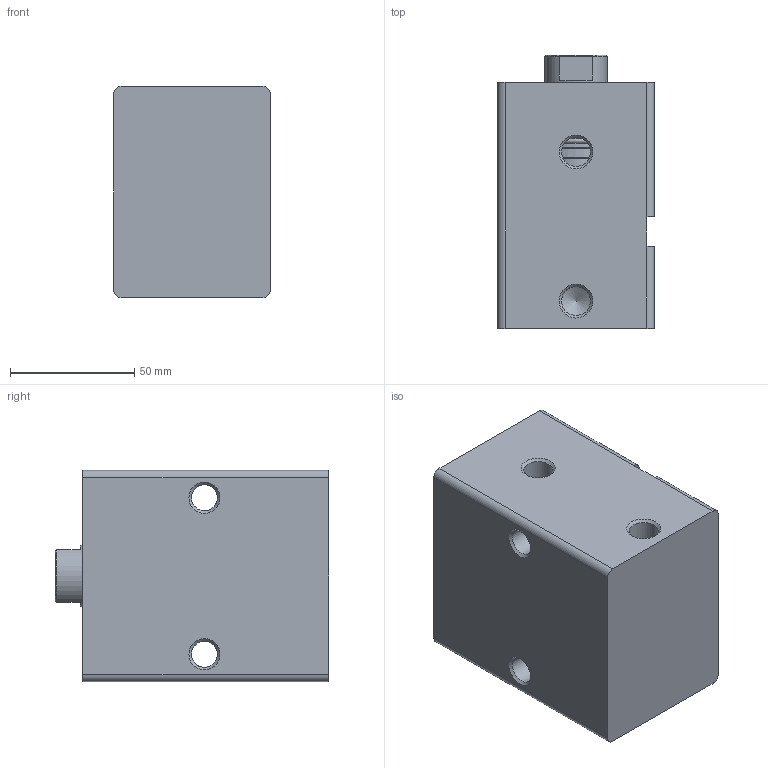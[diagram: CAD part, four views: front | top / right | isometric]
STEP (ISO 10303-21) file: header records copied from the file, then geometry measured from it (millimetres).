
FILE_DESCRIPTION(/* description */ (''),/* implementation_level */ '2;1');
FILE_NAME(/* name */ 'C:/Users/KİNETİC/Desktop/WEB/KBZ_03_40_25_WEB/KBZ_03_40_25_50.step',/* time_stamp */ '2022-09-09T10:47:30+03:00',/* author */ (''),/* organization */ (''),/* preprocessor_version */ 'ST-DEVELOPER v19',/* originating_system */ 'Autodesk Translation Framework v11.7.0.108',/* authorisation */ '');
FILE_SCHEMA (('AUTOMOTIVE_DESIGN { 1 0 10303 214 3 1 1 }'));
Length unit declared in the file: millimetre
Products named in the file (9): KBZ_03_40_25_50; ÖN_KAPAK_40/25; Component1; K06-25X33_6X5_3X7; K22-25X35X6; K68-025x30x6; KO-38X2; Ø25_MİL_WEB; Component1_1
Assembly tree (8 placements, depth 3):
  KBZ_03_40_25_50
    ÖN_KAPAK_40/25
      Component1
      K06-25X33_6X5_3X7
      K22-25X35X6
      K68-025x30x6
      KO-38X2
    Ø25_MİL_WEB
      Component1_1
Bounding box: 63 x 110 x 85 mm (x, y, z)
Volume: 489164.3 mm3; surface area: 79573.8 mm2
Topology: 7 solids, 7 shells, 138 faces, 287 edges, 180 vertices
Faces by surface type: plane 52, cylinder 43, cone 35, torus 8
Full cylindrical faces by diameter (mm): 2 x4, 10.5 x2, 11.668 x2, 14.023 x1, 25 x1, 25.5 x3, 25.6 x1, 26.6 x1, 28 x1, 30 x1, 33.6 x2, 35 x2, 36 x1, 38 x2, 40.526 x1, 40.9 x2, 44 x1
Entity records: 4146 total; most frequent: CARTESIAN_POINT 824, DIRECTION 733, ORIENTED_EDGE 572, AXIS2_PLACEMENT_3D 310, EDGE_CURVE 286, VERTEX_POINT 180, EDGE_LOOP 170, CIRCLE 149
